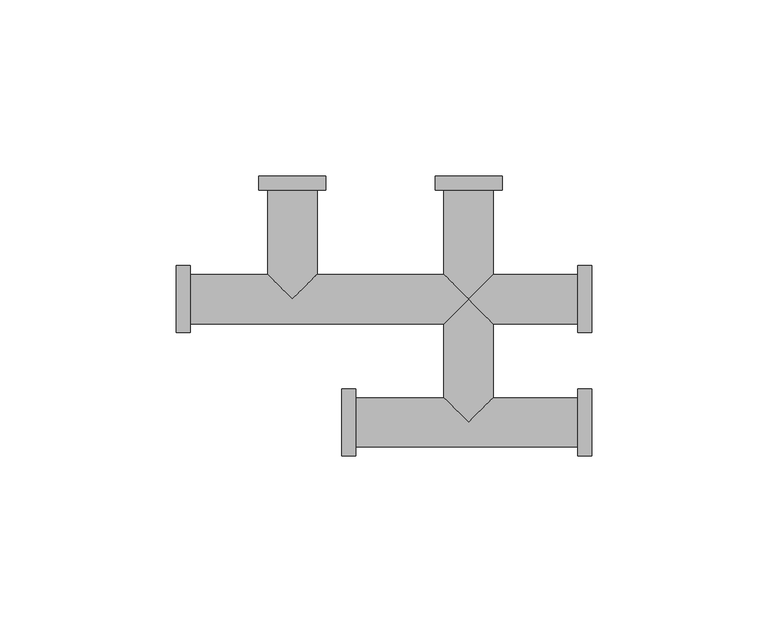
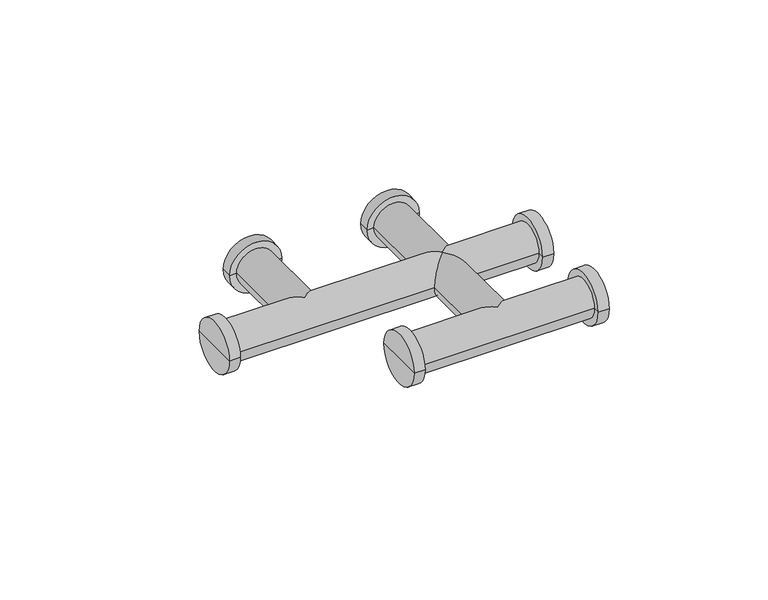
"""IFC4 building model written with IfcOpenShell, lengths in millimetres: pipe fitting geometry, KAN-therm Push trójnik mosężny mijankowy : KAN-therm Push trójnik mosężny mijankowy."""

from ifc_helpers import new_model, si_unit, frame, origin, place, context, project, spatial, circle_curve, ellipse_curve, source, transform, mapped, element, save
from ifc_brep_helpers import plane_surface, cylinder_surface, advanced_brep


def pipe_fitting_92fd806f(model_context):
    return source(origin(), model_context, "Body", "AdvancedBrep", [
        advanced_brep(
        [(35.0, 25.5, 0.0), (35.0, 44.5, 0.0), (35.0, 35.0, 0.0), (31.0, 42.0, 0.0), (31.0, 28.0, 0.0), (7.0, 28.0, 0.0), (0.0, 35.0, -7.0), (7.0, 42.0, 0.0), (-79.0, 28.0, 0.0), (-79.0, 42.0, 0.0), (-57.0, 42.0, 0.0), (-50.0, 35.0, -7.0), (-43.0, 42.0, 0.0), (-7.0, 42.0, 0.0), (-7.0, 28.0, 0.0), (0.0, 35.0, 7.0), (-50.0, 35.0, 7.0), (-83.0, 35.0, 0.0), (-83.0, 44.5, 0.0), (-83.0, 25.5, 0.0), (-57.0, 66.0, 0.0), (-43.0, 66.0, 0.0), (-50.0, 70.0, 0.0), (-40.5, 70.0, 0.0), (-59.5, 70.0, 0.0), (35.0, -9.5, 0.0), (35.0, 9.5, 0.0), (35.0, 0.0, 0.0), (-32.0, -7.0, 0.0), (-32.0, 7.0, 0.0), (-7.0, 7.0, 0.0), (0.0, 0.0, -7.0), (7.0, 7.0, 0.0), (31.0, 7.0, 0.0), (31.0, -7.0, 0.0), (0.0, 0.0, 7.0), (-36.0, 0.0, 0.0), (-36.0, 9.5, 0.0), (-36.0, -9.5, 0.0), (-7.0, 66.0, 0.0), (7.0, 66.0, 0.0), (0.0, 70.0, 0.0), (9.5, 70.0, 0.0), (-9.5, 70.0, 0.0), (31.0, -9.5, 0.0), (31.0, 9.5, 0.0), (-32.0, -9.5, 0.0), (-32.0, 9.5, 0.0), (31.0, 25.5, 0.0), (31.0, 44.5, 0.0), (-79.0, 25.5, 0.0), (-79.0, 44.5, 0.0), (-9.5, 66.0, 0.0), (9.5, 66.0, 0.0), (-59.5, 66.0, 0.0), (-40.5, 66.0, 0.0)],
        [
            (0, 1, circle_curve(frame((35.0, 35.0, 0.0), z_axis=(1.0, 0.0, 0.0), x_axis=(0.0, 1.0, 0.0)), 9.5)),
            (1, 2),
            (2, 0),
            (1, 0, circle_curve(frame((35.0, 35.0, 0.0), z_axis=(1.0, 0.0, 0.0), x_axis=(0.0, 1.0, 0.0)), 9.5)),
            (3, 4, circle_curve(frame((31.0, 35.0, 0.0), z_axis=(-1.0, 0.0, 0.0), x_axis=(0.0, 1.0, 0.0)), 7.0)),
            (4, 5),
            (5, 6, ellipse_curve(frame((0.0, 35.0, 0.0), z_axis=(0.7071067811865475, 0.7071067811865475, 0.0), x_axis=(-0.7071067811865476, 0.7071067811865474, 0.0)), 9.8994949, 7.0)),
            (6, 7, ellipse_curve(frame((0.0, 35.0, 0.0), z_axis=(0.7071067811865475, -0.7071067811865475, 0.0), x_axis=(-0.7071067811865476, -0.7071067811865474, 0.0)), 9.8994949, 7.0)),
            (7, 3),
            (8, 9, circle_curve(frame((-79.0, 35.0, 0.0), z_axis=(1.0, 0.0, 0.0), x_axis=(0.0, 1.0, 0.0)), 7.0)),
            (9, 10),
            (10, 11, ellipse_curve(frame((-50.0, 35.0, 0.0), z_axis=(-0.7071067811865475, -0.7071067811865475, 0.0), x_axis=(-0.7071067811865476, 0.7071067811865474, 0.0)), 9.8994949, 7.0)),
            (11, 12, ellipse_curve(frame((-50.0, 35.0, 0.0), z_axis=(0.7071067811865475, -0.7071067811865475, 0.0), x_axis=(-0.7071067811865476, -0.7071067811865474, 0.0)), 9.8994949, 7.0)),
            (12, 13),
            (13, 6, ellipse_curve(frame((0.0, 35.0, 0.0), z_axis=(-0.7071067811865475, -0.7071067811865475, 0.0), x_axis=(-0.7071067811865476, 0.7071067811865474, 0.0)), 9.8994949, 7.0)),
            (6, 14, ellipse_curve(frame((0.0, 35.0, 0.0), z_axis=(-0.7071067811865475, 0.7071067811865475, 0.0), x_axis=(-0.7071067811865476, -0.7071067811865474, 0.0)), 9.8994949, 7.0)),
            (14, 8),
            (4, 3, circle_curve(frame((31.0, 35.0, 0.0), z_axis=(-1.0, 0.0, 0.0), x_axis=(0.0, 1.0, 0.0)), 7.0)),
            (7, 15, ellipse_curve(frame((0.0, 35.0, 0.0), z_axis=(0.7071067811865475, -0.7071067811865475, 0.0), x_axis=(-0.7071067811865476, -0.7071067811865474, 0.0)), 9.8994949, 7.0)),
            (15, 5, ellipse_curve(frame((0.0, 35.0, 0.0), z_axis=(0.7071067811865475, 0.7071067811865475, 0.0), x_axis=(-0.7071067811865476, 0.7071067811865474, 0.0)), 9.8994949, 7.0)),
            (9, 8, circle_curve(frame((-79.0, 35.0, 0.0), z_axis=(1.0, 0.0, 0.0), x_axis=(0.0, 1.0, 0.0)), 7.0)),
            (14, 15, ellipse_curve(frame((0.0, 35.0, 0.0), z_axis=(-0.7071067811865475, 0.7071067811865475, 0.0), x_axis=(-0.7071067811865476, -0.7071067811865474, 0.0)), 9.8994949, 7.0)),
            (15, 13, ellipse_curve(frame((0.0, 35.0, 0.0), z_axis=(-0.7071067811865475, -0.7071067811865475, 0.0), x_axis=(-0.7071067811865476, 0.7071067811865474, 0.0)), 9.8994949, 7.0)),
            (12, 16, ellipse_curve(frame((-50.0, 35.0, 0.0), z_axis=(0.7071067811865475, -0.7071067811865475, 0.0), x_axis=(-0.7071067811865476, -0.7071067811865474, 0.0)), 9.8994949, 7.0)),
            (16, 10, ellipse_curve(frame((-50.0, 35.0, 0.0), z_axis=(-0.7071067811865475, -0.7071067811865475, 0.0), x_axis=(-0.7071067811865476, 0.7071067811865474, 0.0)), 9.8994949, 7.0)),
            (17, 18),
            (18, 19, circle_curve(frame((-83.0, 35.0, 0.0), z_axis=(-1.0, 0.0, 0.0), x_axis=(0.0, 1.0, 0.0)), 9.5)),
            (19, 17),
            (19, 18, circle_curve(frame((-83.0, 35.0, 0.0), z_axis=(-1.0, 0.0, 0.0), x_axis=(0.0, 1.0, 0.0)), 9.5)),
            (20, 21, circle_curve(frame((-50.0, 66.0, 0.0), z_axis=(0.0, -1.0, 0.0), x_axis=(1.0, 0.0, 0.0)), 7.0)),
            (21, 12),
            (10, 20),
            (21, 20, circle_curve(frame((-50.0, 66.0, 0.0), z_axis=(0.0, -1.0, 0.0), x_axis=(1.0, 0.0, 0.0)), 7.0)),
            (22, 23),
            (23, 24, circle_curve(frame((-50.0, 70.0, 0.0), z_axis=(0.0, 1.0, 0.0), x_axis=(1.0, 0.0, 0.0)), 9.5)),
            (24, 22),
            (24, 23, circle_curve(frame((-50.0, 70.0, 0.0), z_axis=(0.0, 1.0, 0.0), x_axis=(1.0, 0.0, 0.0)), 9.5)),
            (25, 26, circle_curve(frame((35.0, 0.0, 0.0), z_axis=(1.0, 0.0, 0.0), x_axis=(0.0, 1.0, 0.0)), 9.5)),
            (26, 27),
            (27, 25),
            (26, 25, circle_curve(frame((35.0, 0.0, 0.0), z_axis=(1.0, 0.0, 0.0), x_axis=(0.0, 1.0, 0.0)), 9.5)),
            (28, 29, circle_curve(frame((-32.0, 0.0, 0.0), z_axis=(1.0, 0.0, 0.0), x_axis=(0.0, 1.0, 0.0)), 7.0)),
            (29, 30),
            (30, 31, ellipse_curve(frame((0.0, 0.0, 0.0), z_axis=(-0.7071067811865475, -0.7071067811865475, 0.0), x_axis=(-0.7071067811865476, 0.7071067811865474, 0.0)), 9.8994949, 7.0)),
            (31, 32, ellipse_curve(frame((0.0, 0.0, 0.0), z_axis=(0.7071067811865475, -0.7071067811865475, 0.0), x_axis=(-0.7071067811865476, -0.7071067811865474, 0.0)), 9.8994949, 7.0)),
            (32, 33),
            (33, 34, circle_curve(frame((31.0, 0.0, 0.0), z_axis=(-1.0, 0.0, 0.0), x_axis=(0.0, 1.0, 0.0)), 7.0)),
            (34, 28),
            (34, 33, circle_curve(frame((31.0, 0.0, 0.0), z_axis=(-1.0, 0.0, 0.0), x_axis=(0.0, 1.0, 0.0)), 7.0)),
            (32, 35, ellipse_curve(frame((0.0, 0.0, 0.0), z_axis=(0.7071067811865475, -0.7071067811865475, 0.0), x_axis=(-0.7071067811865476, -0.7071067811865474, 0.0)), 9.8994949, 7.0)),
            (35, 30, ellipse_curve(frame((0.0, 0.0, 0.0), z_axis=(-0.7071067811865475, -0.7071067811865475, 0.0), x_axis=(-0.7071067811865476, 0.7071067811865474, 0.0)), 9.8994949, 7.0)),
            (29, 28, circle_curve(frame((-32.0, 0.0, 0.0), z_axis=(1.0, 0.0, 0.0), x_axis=(0.0, 1.0, 0.0)), 7.0)),
            (36, 37),
            (37, 38, circle_curve(frame((-36.0, 0.0, 0.0), z_axis=(-1.0, 0.0, 0.0), x_axis=(0.0, 1.0, 0.0)), 9.5)),
            (38, 36),
            (38, 37, circle_curve(frame((-36.0, 0.0, 0.0), z_axis=(-1.0, 0.0, 0.0), x_axis=(0.0, 1.0, 0.0)), 9.5)),
            (5, 32),
            (30, 14),
            (39, 40, circle_curve(frame((0.0, 66.0, 0.0), z_axis=(0.0, -1.0, 0.0), x_axis=(1.0, 0.0, 0.0)), 7.0)),
            (40, 7),
            (13, 39),
            (40, 39, circle_curve(frame((0.0, 66.0, 0.0), z_axis=(0.0, -1.0, 0.0), x_axis=(1.0, 0.0, 0.0)), 7.0)),
            (41, 42),
            (42, 43, circle_curve(frame((0.0, 70.0, 0.0), z_axis=(0.0, 1.0, 0.0), x_axis=(1.0, 0.0, 0.0)), 9.5)),
            (43, 41),
            (43, 42, circle_curve(frame((0.0, 70.0, 0.0), z_axis=(0.0, 1.0, 0.0), x_axis=(1.0, 0.0, 0.0)), 9.5)),
            (25, 44),
            (44, 45, circle_curve(frame((31.0, 0.0, 0.0), z_axis=(1.0, 0.0, 0.0), x_axis=(0.0, 1.0, 0.0)), 9.5)),
            (45, 26),
            (45, 44, circle_curve(frame((31.0, 0.0, 0.0), z_axis=(1.0, 0.0, 0.0), x_axis=(0.0, 1.0, 0.0)), 9.5)),
            (33, 45),
            (44, 34),
            (28, 46),
            (46, 47, circle_curve(frame((-32.0, 0.0, 0.0), z_axis=(1.0, 0.0, 0.0), x_axis=(0.0, 1.0, 0.0)), 9.5)),
            (47, 29),
            (47, 46, circle_curve(frame((-32.0, 0.0, 0.0), z_axis=(1.0, 0.0, 0.0), x_axis=(0.0, 1.0, 0.0)), 9.5)),
            (37, 47),
            (46, 38),
            (0, 48),
            (48, 49, circle_curve(frame((31.0, 35.0, 0.0), z_axis=(1.0, 0.0, 0.0), x_axis=(0.0, 1.0, 0.0)), 9.5)),
            (49, 1),
            (49, 48, circle_curve(frame((31.0, 35.0, 0.0), z_axis=(1.0, 0.0, 0.0), x_axis=(0.0, 1.0, 0.0)), 9.5)),
            (3, 49),
            (48, 4),
            (8, 50),
            (50, 51, circle_curve(frame((-79.0, 35.0, 0.0), z_axis=(1.0, 0.0, 0.0), x_axis=(0.0, 1.0, 0.0)), 9.5)),
            (51, 9),
            (51, 50, circle_curve(frame((-79.0, 35.0, 0.0), z_axis=(1.0, 0.0, 0.0), x_axis=(0.0, 1.0, 0.0)), 9.5)),
            (18, 51),
            (50, 19),
            (39, 52),
            (52, 53, circle_curve(frame((0.0, 66.0, 0.0), z_axis=(0.0, -1.0, 0.0), x_axis=(1.0, 0.0, 0.0)), 9.5)),
            (53, 40),
            (53, 52, circle_curve(frame((0.0, 66.0, 0.0), z_axis=(0.0, -1.0, 0.0), x_axis=(1.0, 0.0, 0.0)), 9.5)),
            (42, 53),
            (52, 43),
            (20, 54),
            (54, 55, circle_curve(frame((-50.0, 66.0, 0.0), z_axis=(0.0, -1.0, 0.0), x_axis=(1.0, 0.0, 0.0)), 9.5)),
            (55, 21),
            (55, 54, circle_curve(frame((-50.0, 66.0, 0.0), z_axis=(0.0, -1.0, 0.0), x_axis=(1.0, 0.0, 0.0)), 9.5)),
            (23, 55),
            (54, 24),
        ],
        [
            plane_surface(frame((35.0, 35.0, 0.0), z_axis=(1.0, 0.0, 0.0), x_axis=(0.0, 1.0, 0.0))),
            cylinder_surface(frame((-190.9471411, 35.0, 0.0), z_axis=(-1.0, 0.0, 0.0), x_axis=(0.0, 1.0, 0.0)), 7.0),
            plane_surface(frame((-83.0, 35.0, 0.0), z_axis=(-1.0, 0.0, 0.0), x_axis=(0.0, 1.0, 0.0))),
            cylinder_surface(frame((-50.0, 140.7500603, 0.0), z_axis=(0.0, 1.0, 0.0), x_axis=(1.0, 0.0, 0.0)), 7.0),
            plane_surface(frame((-50.0, 70.0, 0.0), z_axis=(0.0, 1.0, 0.0), x_axis=(1.0, 0.0, 0.0))),
            plane_surface(frame((35.0, 0.0, 0.0), z_axis=(1.0, 0.0, 0.0), x_axis=(0.0, 1.0, 0.0))),
            cylinder_surface(frame((2019.5, 0.0, 0.0), z_axis=(-1.0, 0.0, 0.0), x_axis=(0.0, 1.0, 0.0)), 7.0),
            plane_surface(frame((-36.0, 0.0, 0.0), z_axis=(-1.0, 0.0, 0.0), x_axis=(0.0, 1.0, 0.0))),
            cylinder_surface(frame((0.0, 2017.0, 0.0), z_axis=(0.0, 1.0, 0.0), x_axis=(1.0, 0.0, 0.0)), 7.0),
            plane_surface(frame((0.0, 70.0, 0.0), z_axis=(0.0, 1.0, 0.0), x_axis=(1.0, 0.0, 0.0))),
            cylinder_surface(frame((2019.5, 0.0, 0.0), z_axis=(-1.0, 0.0, 0.0), x_axis=(0.0, 1.0, 0.0)), 9.5),
            plane_surface(frame((31.0, 0.0, 0.0), z_axis=(-1.0, 0.0, 0.0), x_axis=(0.0, 1.0, 0.0))),
            plane_surface(frame((-32.0, 0.0, 0.0), z_axis=(1.0, 0.0, 0.0), x_axis=(0.0, 1.0, 0.0))),
            cylinder_surface(frame((-190.9471411, 35.0, 0.0), z_axis=(-1.0, 0.0, 0.0), x_axis=(0.0, 1.0, 0.0)), 9.5),
            plane_surface(frame((31.0, 35.0, 0.0), z_axis=(-1.0, 0.0, 0.0), x_axis=(0.0, 1.0, 0.0))),
            plane_surface(frame((-79.0, 35.0, 0.0), z_axis=(1.0, 0.0, 0.0), x_axis=(0.0, 1.0, 0.0))),
            plane_surface(frame((0.0, 66.0, 0.0), z_axis=(0.0, -1.0, 0.0), x_axis=(1.0, 0.0, 0.0))),
            cylinder_surface(frame((0.0, 2017.0, 0.0), z_axis=(0.0, 1.0, 0.0), x_axis=(1.0, 0.0, 0.0)), 9.5),
            plane_surface(frame((-50.0, 66.0, 0.0), z_axis=(0.0, -1.0, 0.0), x_axis=(1.0, 0.0, 0.0))),
            cylinder_surface(frame((-50.0, 140.7500603, 0.0), z_axis=(0.0, 1.0, 0.0), x_axis=(1.0, 0.0, 0.0)), 9.5),
        ],
        [
            (0, [[1, 2, 3]]),
            (0, [[-2, 4, -3]]),
            (1, [[5, 6, 7, 8, 9]]),
            (1, [[10, 11, 12, 13, 14, 15, 16, 17]]),
            (1, [[18, -9, 19, 20, -6]]),
            (1, [[21, -17, 22, 23, -14, 24, 25, -11]]),
            (2, [[26, 27, 28]]),
            (2, [[-26, -28, 29]]),
            (3, [[30, 31, -13, -12, 32]]),
            (3, [[33, -32, -25, -24, -31]]),
            (4, [[34, 35, 36]]),
            (4, [[-34, -36, 37]]),
            (5, [[38, 39, 40]]),
            (5, [[-39, 41, -40]]),
            (6, [[42, 43, 44, 45, 46, 47, 48]]),
            (6, [[-48, 49, -46, 50, 51, -43, 52]]),
            (7, [[53, 54, 55]]),
            (7, [[-53, -55, 56]]),
            (8, [[57, -45, -44, 58, -16, -7]]),
            (8, [[59, 60, -8, -15, 61]]),
            (8, [[-57, -20, -22, -58, -51, -50]]),
            (8, [[62, -61, -23, -19, -60]]),
            (9, [[63, 64, 65]]),
            (9, [[-63, -65, 66]]),
            (10, [[-38, 67, 68, 69]]),
            (10, [[-41, -69, 70, -67]]),
            (11, [[-47, 71, -68, 72]]),
            (11, [[-49, -72, -70, -71]]),
            (12, [[-42, 73, 74, 75]]),
            (12, [[-52, -75, 76, -73]]),
            (10, [[-54, 77, -74, 78]]),
            (10, [[-56, -78, -76, -77]]),
            (13, [[-1, 79, 80, 81]]),
            (13, [[-4, -81, 82, -79]]),
            (14, [[-5, 83, -80, 84]]),
            (14, [[-18, -84, -82, -83]]),
            (15, [[-10, 85, 86, 87]]),
            (15, [[-21, -87, 88, -85]]),
            (13, [[-27, 89, -86, 90]]),
            (13, [[-29, -90, -88, -89]]),
            (16, [[-59, 91, 92, 93]]),
            (16, [[-62, -93, 94, -91]]),
            (17, [[-64, 95, -92, 96]]),
            (17, [[-66, -96, -94, -95]]),
            (18, [[-30, 97, 98, 99]]),
            (18, [[-33, -99, 100, -97]]),
            (19, [[-35, 101, -98, 102]]),
            (19, [[-37, -102, -100, -101]]),
        ],
    ),
    ])


if __name__ == "__main__":
    model = new_model("IFC4")
    model_context = context("Model", 3, world=origin())
    ifc_project = project(units=[si_unit("LENGTHUNIT", "METRE", prefix="MILLI")], contexts=[model_context])
    site = spatial("IfcSite", under=ifc_project)
    building = spatial("IfcBuilding", under=site)
    placement = place(None, origin())
    pipe_fitting_shape = pipe_fitting_92fd806f(model_context)
    element("IfcPipeFitting", 1, ObjectType="KAN-therm Push trójnik mosężny mijankowy : KAN-therm Push trójnik mosężny mijankowy", at=placement, inside=building, context=model_context, shape_type="MappedRepresentation", body=[
        mapped(pipe_fitting_shape, transform((0.0, 0.0, 0.0), x_axis=(1.0, 0.0, 0.0), y_axis=(0.0, 1.0, 0.0), z_axis=(0.0, 0.0, 1.0))),
    ])
    save(model, "model.ifc")
